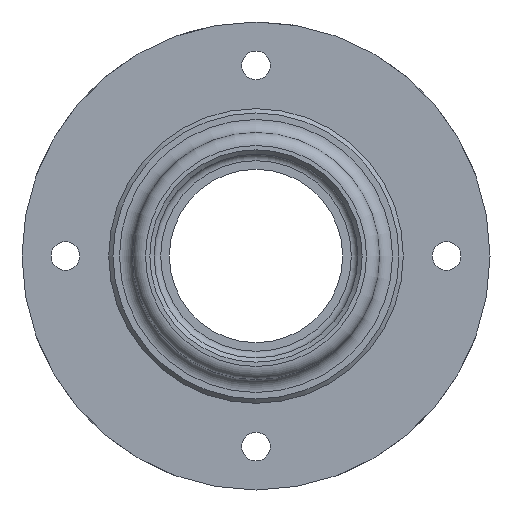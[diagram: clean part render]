
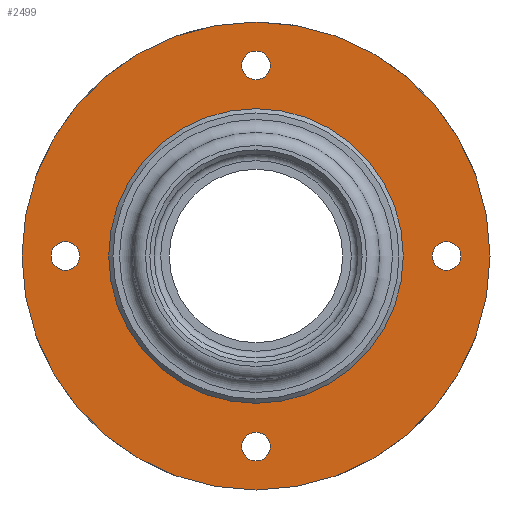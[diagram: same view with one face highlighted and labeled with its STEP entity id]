
A CAD part, left-side view. The second image highlights one B-rep face of the part: STEP entity #2499.
In plain terms, the highlighted planar face has unit normal (-1, 0, 0).
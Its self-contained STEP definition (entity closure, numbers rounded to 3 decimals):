
#27=FACE_BOUND('',#582,.T.);
#28=FACE_BOUND('',#583,.T.);
#29=FACE_BOUND('',#584,.T.);
#30=FACE_BOUND('',#585,.T.);
#31=FACE_BOUND('',#586,.T.);
#82=PLANE('',#2822);
#396=FACE_OUTER_BOUND('',#581,.T.);
#581=EDGE_LOOP('',(#2131));
#582=EDGE_LOOP('',(#2132));
#583=EDGE_LOOP('',(#2133));
#584=EDGE_LOOP('',(#2134));
#585=EDGE_LOOP('',(#2135));
#586=EDGE_LOOP('',(#2136));
#940=CIRCLE('',#2821,34.);
#941=CIRCLE('',#2823,54.);
#942=CIRCLE('',#2824,3.3);
#943=CIRCLE('',#2825,3.3);
#944=CIRCLE('',#2826,3.3);
#945=CIRCLE('',#2827,3.3);
#1162=VERTEX_POINT('',#5529);
#1163=VERTEX_POINT('',#5533);
#1164=VERTEX_POINT('',#5535);
#1165=VERTEX_POINT('',#5537);
#1166=VERTEX_POINT('',#5539);
#1167=VERTEX_POINT('',#5541);
#1497=EDGE_CURVE('',#1162,#1162,#940,.T.);
#1499=EDGE_CURVE('',#1163,#1163,#941,.T.);
#1500=EDGE_CURVE('',#1164,#1164,#942,.T.);
#1501=EDGE_CURVE('',#1165,#1165,#943,.T.);
#1502=EDGE_CURVE('',#1166,#1166,#944,.T.);
#1503=EDGE_CURVE('',#1167,#1167,#945,.T.);
#2131=ORIENTED_EDGE('',*,*,#1499,.F.);
#2132=ORIENTED_EDGE('',*,*,#1497,.T.);
#2133=ORIENTED_EDGE('',*,*,#1500,.T.);
#2134=ORIENTED_EDGE('',*,*,#1501,.T.);
#2135=ORIENTED_EDGE('',*,*,#1502,.T.);
#2136=ORIENTED_EDGE('',*,*,#1503,.T.);
#2499=ADVANCED_FACE('',(#396,#27,#28,#29,#30,#31),#82,.T.);
#2821=AXIS2_PLACEMENT_3D('',#5530,#3449,#3450);
#2822=AXIS2_PLACEMENT_3D('',#5532,#3452,#3453);
#2823=AXIS2_PLACEMENT_3D('',#5534,#3454,#3455);
#2824=AXIS2_PLACEMENT_3D('',#5536,#3456,#3457);
#2825=AXIS2_PLACEMENT_3D('',#5538,#3458,#3459);
#2826=AXIS2_PLACEMENT_3D('',#5540,#3460,#3461);
#2827=AXIS2_PLACEMENT_3D('',#5542,#3462,#3463);
#3449=DIRECTION('center_axis',(1.,0.,0.));
#3450=DIRECTION('ref_axis',(0.,0.,-1.));
#3452=DIRECTION('center_axis',(-1.,0.,0.));
#3453=DIRECTION('ref_axis',(0.,0.,1.));
#3454=DIRECTION('center_axis',(1.,0.,0.));
#3455=DIRECTION('ref_axis',(0.,0.,-1.));
#3456=DIRECTION('center_axis',(1.,0.,0.));
#3457=DIRECTION('ref_axis',(0.,-1.,0.));
#3458=DIRECTION('center_axis',(1.,0.,0.));
#3459=DIRECTION('ref_axis',(0.,0.,1.));
#3460=DIRECTION('center_axis',(1.,0.,0.));
#3461=DIRECTION('ref_axis',(0.,1.,0.));
#3462=DIRECTION('center_axis',(1.,0.,0.));
#3463=DIRECTION('ref_axis',(0.,0.,-1.));
#5529=CARTESIAN_POINT('',(15.,-34.,0.));
#5530=CARTESIAN_POINT('Origin',(15.,0.,0.));
#5532=CARTESIAN_POINT('Origin',(15.,54.,0.));
#5533=CARTESIAN_POINT('',(15.,-54.,0.));
#5534=CARTESIAN_POINT('Origin',(15.,0.,0.));
#5535=CARTESIAN_POINT('',(15.,3.3,44.));
#5536=CARTESIAN_POINT('Origin',(15.,0.,44.));
#5537=CARTESIAN_POINT('',(15.,44.,-3.3));
#5538=CARTESIAN_POINT('Origin',(15.,44.,0.));
#5539=CARTESIAN_POINT('',(15.,-3.3,-44.));
#5540=CARTESIAN_POINT('Origin',(15.,0.,-44.));
#5541=CARTESIAN_POINT('',(15.,-44.,3.3));
#5542=CARTESIAN_POINT('Origin',(15.,-44.,0.));
